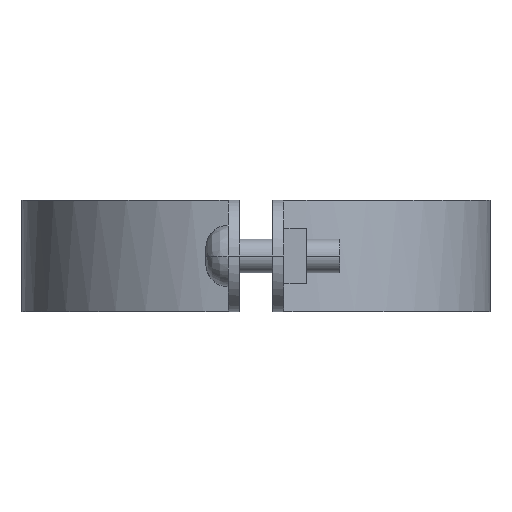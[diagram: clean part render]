
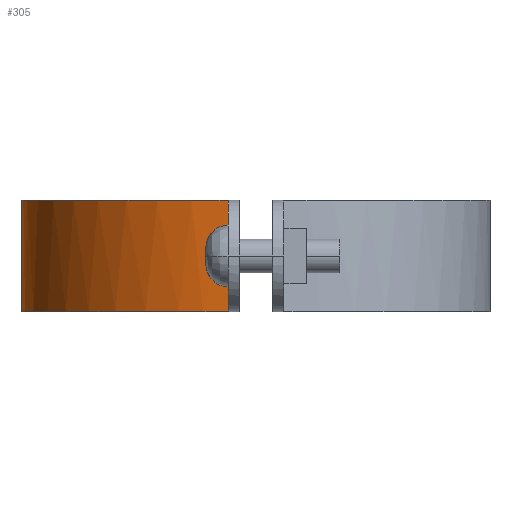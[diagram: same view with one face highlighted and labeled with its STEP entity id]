
A CAD part, left-side view. The second image highlights one B-rep face of the part: STEP entity #305.
In plain terms, the highlighted free-form (B-spline) face has degree [3, 1] with [4, 2] control points.
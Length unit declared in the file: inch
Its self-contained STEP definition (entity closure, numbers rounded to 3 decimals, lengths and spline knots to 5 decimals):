
#305=ADVANCED_FACE('',(#576),#577,.T.);
#576=FACE_OUTER_BOUND('',#1279,.T.);
#577=B_SPLINE_SURFACE_WITH_KNOTS('',3,1,((#1280,#1281),(#1282,#1283),(#1284,#1285),(#1286,#1287)),.UNSPECIFIED.,.F.,.F.,.F.,(4,4),(2,2),(-1.0,-0.0),(0.0,1.25),.UNSPECIFIED.);
#1279=EDGE_LOOP('',(#1888,#1889,#1890,#1891));
#1280=CARTESIAN_POINT('',(3.3412,5.22666,0.0));
#1281=CARTESIAN_POINT('',(3.3412,5.22666,1.25));
#1282=CARTESIAN_POINT('',(2.01375,5.22666,0.0));
#1283=CARTESIAN_POINT('',(2.01375,5.22666,1.25));
#1284=CARTESIAN_POINT('',(0.8957,4.23465,0.0));
#1285=CARTESIAN_POINT('',(0.8957,4.23465,1.25));
#1286=CARTESIAN_POINT('',(0.73766,2.91663,0.0));
#1287=CARTESIAN_POINT('',(0.73766,2.91663,1.25));
#1888=ORIENTED_EDGE('',*,*,#2070,.T.);
#1889=ORIENTED_EDGE('',*,*,#2149,.T.);
#1890=ORIENTED_EDGE('',*,*,#2041,.T.);
#1891=ORIENTED_EDGE('',*,*,#1987,.F.);
#1987=EDGE_CURVE('',#2289,#2291,#2292,.T.);
#2041=EDGE_CURVE('',#2377,#2291,#2378,.T.);
#2070=EDGE_CURVE('',#2289,#2420,#2422,.T.);
#2149=EDGE_CURVE('',#2420,#2377,#2527,.T.);
#2289=VERTEX_POINT('',#2791);
#2291=VERTEX_POINT('',#2794);
#2292=LINE('',#2795,#2796);
#2377=VERTEX_POINT('',#2946);
#2378=B_SPLINE_CURVE_WITH_KNOTS('',3,(#2947,#2948,#2949,#2950),.UNSPECIFIED.,.F.,.F.,(4,4),(0.0,1.0),.UNSPECIFIED.);
#2420=VERTEX_POINT('',#3021);
#2422=B_SPLINE_CURVE_WITH_KNOTS('',3,(#3024,#3025,#3026,#3027),.UNSPECIFIED.,.F.,.F.,(4,4),(-1.0,-0.0),.UNSPECIFIED.);
#2527=LINE('',#3228,#3229);
#2791=CARTESIAN_POINT('',(3.3412,5.22666,0.00011));
#2794=CARTESIAN_POINT('',(3.3412,5.22666,1.24992));
#2795=CARTESIAN_POINT('',(3.3412,5.22666,0.0));
#2796=VECTOR('',#3350,1.0);
#2946=CARTESIAN_POINT('',(0.73766,2.91663,1.24992));
#2947=CARTESIAN_POINT('',(0.73766,2.91663,1.24992));
#2948=CARTESIAN_POINT('',(0.8957,4.23465,1.24992));
#2949=CARTESIAN_POINT('',(2.01375,5.22666,1.24992));
#2950=CARTESIAN_POINT('',(3.3412,5.22666,1.24992));
#3021=CARTESIAN_POINT('',(0.73766,2.91663,0.00011));
#3024=CARTESIAN_POINT('',(3.3412,5.22666,0.00011));
#3025=CARTESIAN_POINT('',(2.01375,5.22666,0.00011));
#3026=CARTESIAN_POINT('',(0.8957,4.23465,0.00011));
#3027=CARTESIAN_POINT('',(0.73766,2.91663,0.00011));
#3228=CARTESIAN_POINT('',(0.73766,2.91663,0.0));
#3229=VECTOR('',#3440,1.0);
#3350=DIRECTION('',(0.0,0.0,1.0));
#3440=DIRECTION('',(0.0,0.0,1.0));
